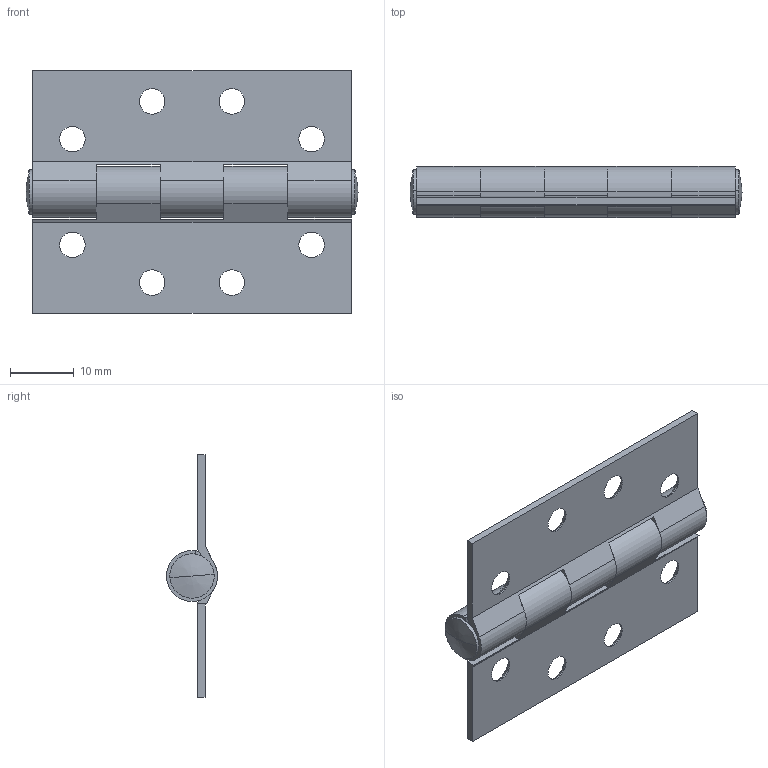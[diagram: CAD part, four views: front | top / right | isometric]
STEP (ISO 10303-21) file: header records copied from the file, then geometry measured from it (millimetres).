
FILE_DESCRIPTION (( 'STEP AP203' ), '1' );
FILE_NAME ('SBF50BZ_1.STEP', '2020-05-27T13:47:59', ( '' ), ( '' ), 'SwSTEP 2.0', 'SolidWorks 2016', '' );
FILE_SCHEMA (( 'CONFIG_CONTROL_DESIGN' ));
Length unit declared in the file: millimetre
Products named in the file (4): PinSBF50BZ; SBF50BZ_1; SBF50BZ_Cover_2; SBF50BZ
Assembly tree (3 placements, depth 2):
  SBF50BZ_1
    SBF50BZ_Cover_2
    SBF50BZ
    PinSBF50BZ
Bounding box: 52.05 x 8 x 38 mm (x, y, z)
Volume: 4407.4 mm3; surface area: 6584.7 mm2
Topology: 3 solids, 3 shells, 109 faces, 285 edges, 180 vertices
Faces by surface type: cylinder 52, plane 37, cone 16, bspline 4
Entity records: 3817 total; most frequent: CARTESIAN_POINT 628, DIRECTION 623, ORIENTED_EDGE 562, EDGE_CURVE 281, AXIS2_PLACEMENT_3D 235, VERTEX_POINT 180, LINE 153, VECTOR 153
